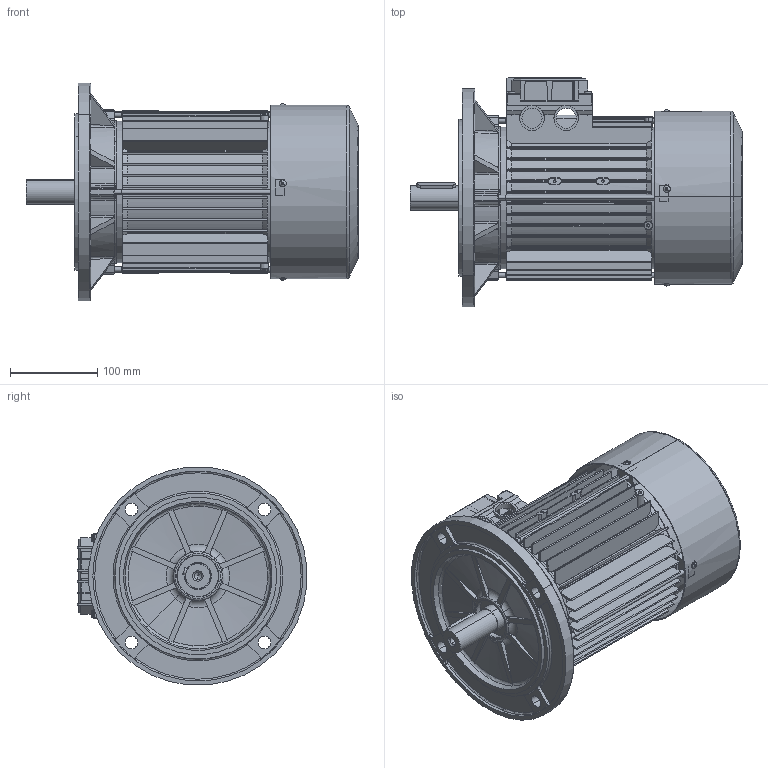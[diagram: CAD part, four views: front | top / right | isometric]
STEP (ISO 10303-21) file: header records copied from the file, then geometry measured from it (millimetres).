
FILE_DESCRIPTION (( 'STEP AP214' ), '1' );
FILE_NAME ('SM 100 B5.STEP', '2017-11-08T13:45:15', ( '' ), ( '' ), 'SwSTEP 2.0', 'SolidWorks 2017', '' );
FILE_SCHEMA (( 'AUTOMOTIVE_DESIGN' ));
Length unit declared in the file: millimetre
Products named in the file (13): Ventola BM 100-112; Chiavetta 100-112; Albero SM 100; Scudo Lato Comando B3 BA-BM 100 - DEAD0094; Scudo a flangia B5 Fi 250 BA-BM 100 - DEAA0094; Carcassa 100 B5; SM 100 B5; Coperchio per Scatola Singola 90 - 100 - 112 con viti; Vite  a testa bombata M4x16; Coperchio per Scatola Singola 90 - 100 - 112; Vite testa rotonda M3; Cuffia SM 100; Tirante SM 100
Assembly tree (21 placements, depth 3):
  SM 100 B5
    Carcassa 100 B5
    Scudo a flangia B5 Fi 250 BA-BM 100 - DEAA0094
    Scudo Lato Comando B3 BA-BM 100 - DEAD0094
    Albero SM 100
    Chiavetta 100-112
    Ventola BM 100-112
    Tirante SM 100  x4
    Cuffia SM 100
    Vite testa rotonda M3  x4
    Coperchio per Scatola Singola 90 - 100 - 112 con viti
      Coperchio per Scatola Singola 90 - 100 - 112
      Vite  a testa bombata M4x16  x4
Bounding box: 379.5 x 262.52 x 249.05 mm (x, y, z)
Volume: 1895697.8 mm3; surface area: 1000915.5 mm2
Topology: 24 solids, 24 shells, 3626 faces, 10093 edges, 6554 vertices
Faces by surface type: plane 1413, cylinder 1367, torus 395, cone 311, bspline 132, sphere 8
Entity records: 119447 total; most frequent: CARTESIAN_POINT 35961, ORIENTED_EDGE 18208, DIRECTION 16596, EDGE_CURVE 9104, AXIS2_PLACEMENT_3D 6178, VERTEX_POINT 5954, VECTOR 4240, LINE 4240
